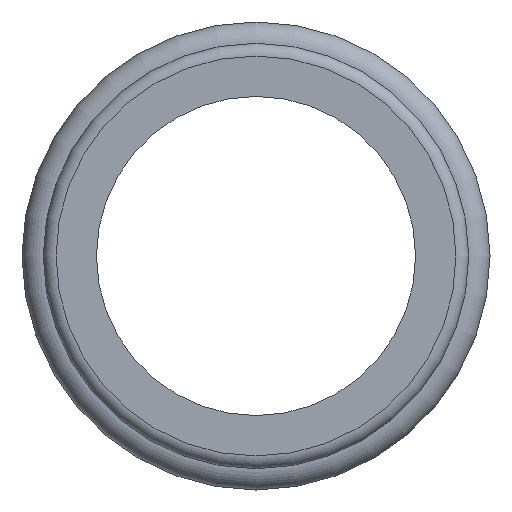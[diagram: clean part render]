
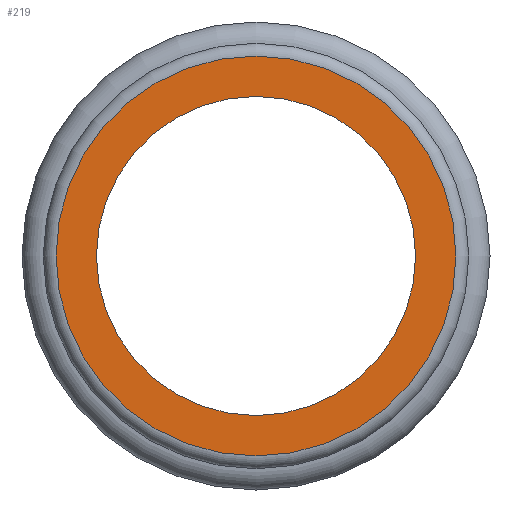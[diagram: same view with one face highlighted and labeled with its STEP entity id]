
A CAD part, left-side view. The second image highlights one B-rep face of the part: STEP entity #219.
In plain terms, the highlighted planar face has unit normal (-1, 0, 0).
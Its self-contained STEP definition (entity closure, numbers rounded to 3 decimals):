
#165=CARTESIAN_POINT('',(-37.0,0.,4.7));
#166=VERTEX_POINT('',#165);
#167=CARTESIAN_POINT('',(-37.0,0.0,0.0));
#168=DIRECTION('',(1.0,0.0,0.0));
#169=DIRECTION('',(0.0,0.0,-1.0));
#170=AXIS2_PLACEMENT_3D('',#167,#168,#169);
#171=CIRCLE('',#170,4.7);
#172=EDGE_CURVE('',#166,#166,#171,.T.);
#200=CARTESIAN_POINT('',(-37.0,0.0,0.0));
#201=DIRECTION('',(1.0,0.0,0.0));
#202=DIRECTION('',(0.0,0.0,-1.0));
#203=AXIS2_PLACEMENT_3D('',#200,#201,#202);
#204=PLANE('',#203);
#205=ORIENTED_EDGE('',*,*,#172,.F.);
#206=EDGE_LOOP('',(#205));
#207=FACE_OUTER_BOUND('',#206,.T.);
#208=CARTESIAN_POINT('',(-37.0,0.,3.75));
#209=VERTEX_POINT('',#208);
#210=CARTESIAN_POINT('',(-37.0,0.0,0.0));
#211=DIRECTION('',(1.0,0.0,0.0));
#212=DIRECTION('',(0.0,0.0,-1.0));
#213=AXIS2_PLACEMENT_3D('',#210,#211,#212);
#214=CIRCLE('',#213,3.75);
#215=EDGE_CURVE('',#209,#209,#214,.T.);
#216=ORIENTED_EDGE('',*,*,#215,.T.);
#217=EDGE_LOOP('',(#216));
#218=FACE_BOUND('',#217,.T.);
#219=ADVANCED_FACE('',(#207,#218),#204,.F.);
